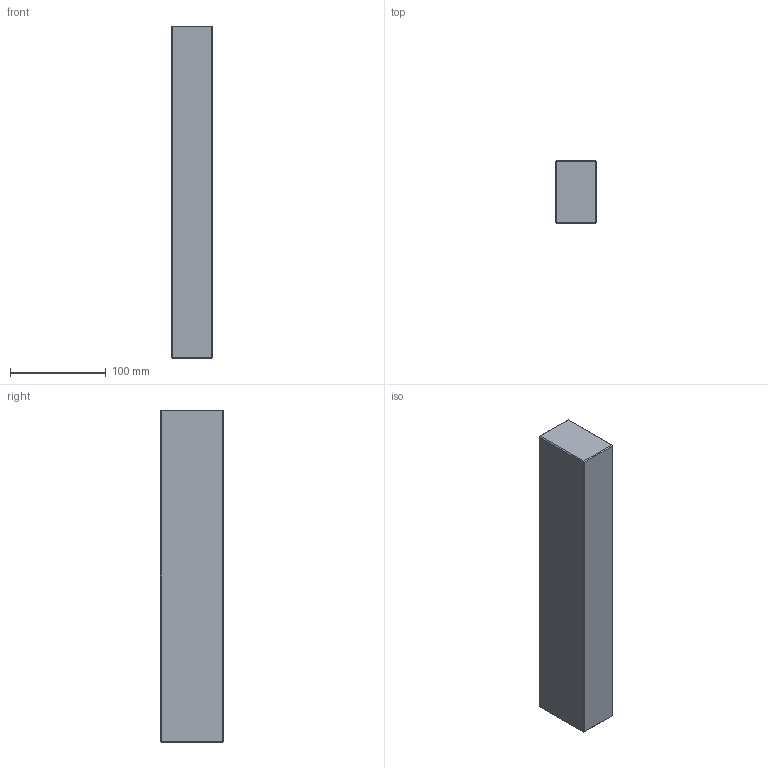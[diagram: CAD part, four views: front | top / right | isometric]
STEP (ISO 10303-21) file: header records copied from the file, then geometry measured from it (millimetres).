
FILE_DESCRIPTION (( 'STEP AP214' ), '1' );
FILE_NAME ('ESP-P-346X346x66.STEP', '2020-04-08T10:55:18', ( 'August' ), ( '' ), 'SwSTEP 2.0', 'SolidWorks 2018', '' );
FILE_SCHEMA (( 'AUTOMOTIVE_DESIGN' ));
Length unit declared in the file: millimetre
Products named in the file (1): ESP-P-346X346x66
Bounding box: 43 x 66 x 346 mm (x, y, z)
Volume: 981043.3 mm3; surface area: 80034.9 mm2
Topology: 1 solids, 1 shells, 26 faces, 48 edges, 24 vertices
Faces by surface type: plane 26
Entity records: 634 total; most frequent: DIRECTION 102, CARTESIAN_POINT 99, ORIENTED_EDGE 96, VECTOR 48, EDGE_CURVE 48, LINE 48, AXIS2_PLACEMENT_3D 27, ADVANCED_FACE 26
